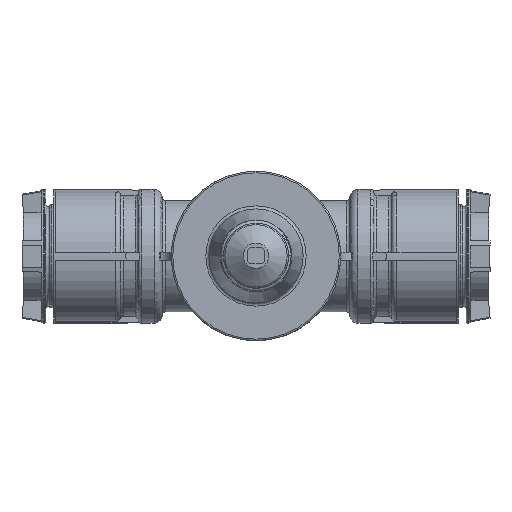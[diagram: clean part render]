
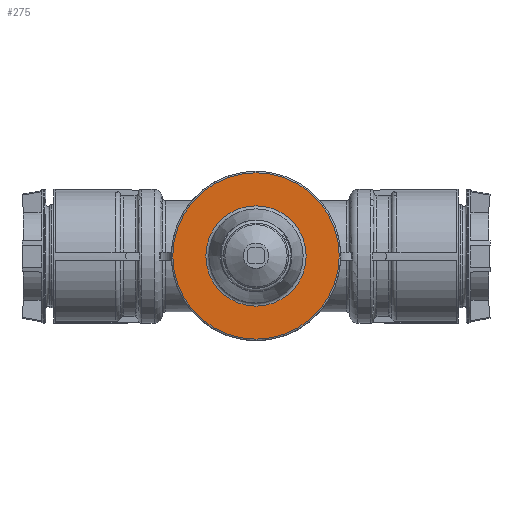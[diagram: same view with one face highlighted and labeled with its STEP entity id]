
A CAD part, top view. The second image highlights one B-rep face of the part: STEP entity #275.
In plain terms, the highlighted planar face has unit normal (0, 0, 1).
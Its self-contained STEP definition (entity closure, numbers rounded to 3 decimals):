
#275 = ADVANCED_FACE( '', ( #795, #796 ), #797, .F. );
#795 = FACE_BOUND( '', #1436, .T. );
#796 = FACE_OUTER_BOUND( '', #1437, .T. );
#797 = PLANE( '', #1438 );
#1436 = EDGE_LOOP( '', ( #3216 ) );
#1437 = EDGE_LOOP( '', ( #3217 ) );
#1438 = AXIS2_PLACEMENT_3D( '', #3218, #3219, #3220 );
#3216 = ORIENTED_EDGE( '', *, *, #4669, .F. );
#3217 = ORIENTED_EDGE( '', *, *, #4668, .T. );
#3218 = CARTESIAN_POINT( '', ( 52.27, 0., 105. ) );
#3219 = DIRECTION( '', ( 0., 0., -1. ) );
#3220 = DIRECTION( '', ( -1., 0., 0. ) );
#4668 = EDGE_CURVE( '', #5890, #5890, #5891, .T. );
#4669 = EDGE_CURVE( '', #5892, #5892, #5893, .T. );
#5890 = VERTEX_POINT( '', #9312 );
#5891 = CIRCLE( '', #9313, 52.27 );
#5892 = VERTEX_POINT( '', #9314 );
#5893 = CIRCLE( '', #9315, 31.508 );
#9312 = CARTESIAN_POINT( '', ( 52.27, 0., 105. ) );
#9313 = AXIS2_PLACEMENT_3D( '', #10482, #10483, #10484 );
#9314 = CARTESIAN_POINT( '', ( 31.508, 0., 105. ) );
#9315 = AXIS2_PLACEMENT_3D( '', #10485, #10486, #10487 );
#10482 = CARTESIAN_POINT( '', ( 0., 0., 105. ) );
#10483 = DIRECTION( '', ( 0., 0., 1. ) );
#10484 = DIRECTION( '', ( 1., 0., 0. ) );
#10485 = CARTESIAN_POINT( '', ( 0., 0., 105. ) );
#10486 = DIRECTION( '', ( 0., 0., 1. ) );
#10487 = DIRECTION( '', ( 1., 0., 0. ) );
